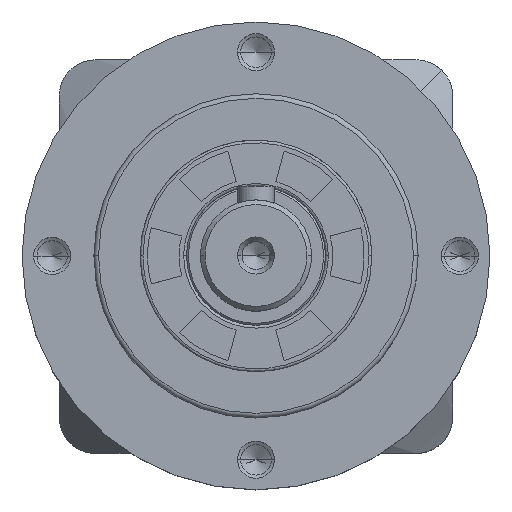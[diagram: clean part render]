
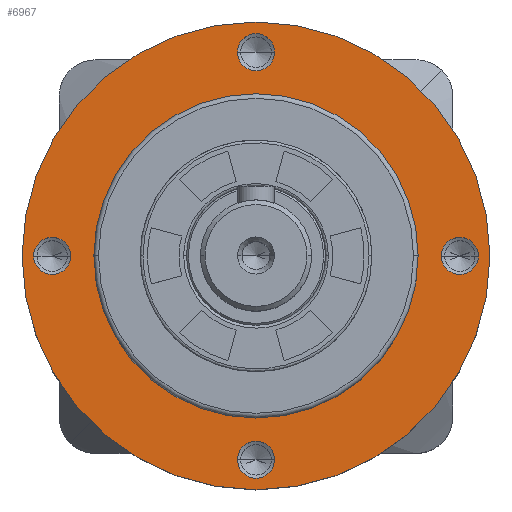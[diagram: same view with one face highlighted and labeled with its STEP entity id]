
A CAD part, top view. The second image highlights one B-rep face of the part: STEP entity #6967.
In plain terms, the highlighted planar face has unit normal (0, 0, 1).
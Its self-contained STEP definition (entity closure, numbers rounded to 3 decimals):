
#309 = CIRCLE ( 'NONE', #8910, 17.5 ) ;
#388 = VERTEX_POINT ( 'NONE', #14330 ) ;
#780 = ORIENTED_EDGE ( 'NONE', *, *, #4284, .F. ) ;
#979 = CARTESIAN_POINT ( 'NONE',  ( 22., 0., 10.8 ) ) ;
#1067 = CARTESIAN_POINT ( 'NONE',  ( 2., -22., 10.8 ) ) ;
#1087 = CARTESIAN_POINT ( 'NONE',  ( -17.5, 0., 10.8 ) ) ;
#1158 = DIRECTION ( 'NONE',  ( 1., 0., 0. ) ) ;
#1247 = CARTESIAN_POINT ( 'NONE',  ( -2., 22., 10.8 ) ) ;
#1254 = DIRECTION ( 'NONE',  ( 0., 0., 1. ) ) ;
#1272 = CARTESIAN_POINT ( 'NONE',  ( 0., 22., 10.8 ) ) ;
#1708 = CARTESIAN_POINT ( 'NONE',  ( -2., -22., 10.8 ) ) ;
#1770 = EDGE_CURVE ( 'NONE', #19057, #388, #17792, .T. ) ;
#1834 = FACE_BOUND ( 'NONE', #9662, .T. ) ;
#1933 = EDGE_CURVE ( 'NONE', #10940, #7120, #309, .T. ) ;
#1975 = DIRECTION ( 'NONE',  ( 1., 0., 0. ) ) ;
#2134 = EDGE_LOOP ( 'NONE', ( #12371, #10568 ) ) ;
#2347 = AXIS2_PLACEMENT_3D ( 'NONE', #19751, #4803, #1158 ) ;
#2574 = AXIS2_PLACEMENT_3D ( 'NONE', #17294, #17135, #13470 ) ;
#2764 = AXIS2_PLACEMENT_3D ( 'NONE', #4453, #15800, #4613 ) ;
#2812 = ORIENTED_EDGE ( 'NONE', *, *, #19721, .F. ) ;
#2972 = CIRCLE ( 'NONE', #18079, 2. ) ;
#3130 = DIRECTION ( 'NONE',  ( 0., 0., 1. ) ) ;
#3136 = CARTESIAN_POINT ( 'NONE',  ( 25.25, 0., 10.8 ) ) ;
#3183 = EDGE_CURVE ( 'NONE', #10562, #20847, #23903, .T. ) ;
#3286 = DIRECTION ( 'NONE',  ( 1., 0., 0. ) ) ;
#3435 = AXIS2_PLACEMENT_3D ( 'NONE', #17793, #19692, #8152 ) ;
#3668 = CARTESIAN_POINT ( 'NONE',  ( 24., 0., 10.8 ) ) ;
#4174 = EDGE_LOOP ( 'NONE', ( #17343, #16841 ) ) ;
#4284 = EDGE_CURVE ( 'NONE', #20847, #10562, #23574, .T. ) ;
#4453 = CARTESIAN_POINT ( 'NONE',  ( 0., -22., 10.8 ) ) ;
#4565 = CIRCLE ( 'NONE', #5808, 2. ) ;
#4613 = DIRECTION ( 'NONE',  ( 1., 0., 0. ) ) ;
#4803 = DIRECTION ( 'NONE',  ( 0., 0., 1. ) ) ;
#5056 = ORIENTED_EDGE ( 'NONE', *, *, #22210, .F. ) ;
#5344 = DIRECTION ( 'NONE',  ( 0., 0., 1. ) ) ;
#5348 = CARTESIAN_POINT ( 'NONE',  ( -22., 0., 10.8 ) ) ;
#5402 = DIRECTION ( 'NONE',  ( 0., 0., 1. ) ) ;
#5808 = AXIS2_PLACEMENT_3D ( 'NONE', #12612, #18150, #21673 ) ;
#6203 = FACE_BOUND ( 'NONE', #12231, .T. ) ;
#6532 = EDGE_LOOP ( 'NONE', ( #11233, #780 ) ) ;
#6557 = DIRECTION ( 'NONE',  ( 1., 0., 0. ) ) ;
#6967 = ADVANCED_FACE ( 'NONE', ( #1834, #6203, #12629, #16988, #23703, #9402 ), #22107, .T. ) ;
#7108 = CIRCLE ( 'NONE', #2764, 2. ) ;
#7120 = VERTEX_POINT ( 'NONE', #18879 ) ;
#7755 = VERTEX_POINT ( 'NONE', #14513 ) ;
#8152 = DIRECTION ( 'NONE',  ( 1., 0., 0. ) ) ;
#8664 = CARTESIAN_POINT ( 'NONE',  ( -22., 0., 10.8 ) ) ;
#8742 = DIRECTION ( 'NONE',  ( 1., 0., 0. ) ) ;
#8910 = AXIS2_PLACEMENT_3D ( 'NONE', #16509, #5402, #1975 ) ;
#9176 = CARTESIAN_POINT ( 'NONE',  ( -20., 0., 10.8 ) ) ;
#9402 = FACE_OUTER_BOUND ( 'NONE', #4174, .T. ) ;
#9422 = DIRECTION ( 'NONE',  ( 1., 0., 0. ) ) ;
#9496 = AXIS2_PLACEMENT_3D ( 'NONE', #23356, #17796, #6557 ) ;
#9662 = EDGE_LOOP ( 'NONE', ( #17268, #2812 ) ) ;
#9705 = CARTESIAN_POINT ( 'NONE',  ( 2., 22., 10.8 ) ) ;
#9931 = CIRCLE ( 'NONE', #17475, 2. ) ;
#10562 = VERTEX_POINT ( 'NONE', #9705 ) ;
#10568 = ORIENTED_EDGE ( 'NONE', *, *, #21304, .F. ) ;
#10940 = VERTEX_POINT ( 'NONE', #1087 ) ;
#11233 = ORIENTED_EDGE ( 'NONE', *, *, #3183, .F. ) ;
#11624 = AXIS2_PLACEMENT_3D ( 'NONE', #14624, #1254, #12501 ) ;
#12231 = EDGE_LOOP ( 'NONE', ( #22631, #5056 ) ) ;
#12371 = ORIENTED_EDGE ( 'NONE', *, *, #1933, .F. ) ;
#12501 = DIRECTION ( 'NONE',  ( 1., 0., 0. ) ) ;
#12612 = CARTESIAN_POINT ( 'NONE',  ( 22., 0., 10.8 ) ) ;
#12629 = FACE_BOUND ( 'NONE', #19716, .T. ) ;
#12787 = CARTESIAN_POINT ( 'NONE',  ( 0., 0., 10.8 ) ) ;
#13162 = CIRCLE ( 'NONE', #9496, 17.5 ) ;
#13457 = VERTEX_POINT ( 'NONE', #19009 ) ;
#13470 = DIRECTION ( 'NONE',  ( 1., 0., 0. ) ) ;
#13788 = EDGE_CURVE ( 'NONE', #24028, #7755, #4565, .T. ) ;
#14030 = DIRECTION ( 'NONE',  ( 0., 0., 1. ) ) ;
#14133 = AXIS2_PLACEMENT_3D ( 'NONE', #12787, #5344, #14664 ) ;
#14330 = CARTESIAN_POINT ( 'NONE',  ( -25.25, 0., 10.8 ) ) ;
#14486 = CIRCLE ( 'NONE', #16612, 2. ) ;
#14513 = CARTESIAN_POINT ( 'NONE',  ( 20., 0., 10.8 ) ) ;
#14552 = EDGE_CURVE ( 'NONE', #17009, #19699, #17686, .T. ) ;
#14590 = EDGE_CURVE ( 'NONE', #19195, #13457, #14486, .T. ) ;
#14624 = CARTESIAN_POINT ( 'NONE',  ( 0., -22., 10.8 ) ) ;
#14664 = DIRECTION ( 'NONE',  ( 1., 0., 0. ) ) ;
#15260 = ORIENTED_EDGE ( 'NONE', *, *, #14552, .F. ) ;
#15800 = DIRECTION ( 'NONE',  ( 0., 0., 1. ) ) ;
#16302 = EDGE_CURVE ( 'NONE', #388, #19057, #21744, .T. ) ;
#16509 = CARTESIAN_POINT ( 'NONE',  ( 0., 0., 10.8 ) ) ;
#16612 = AXIS2_PLACEMENT_3D ( 'NONE', #8664, #22065, #8742 ) ;
#16841 = ORIENTED_EDGE ( 'NONE', *, *, #16302, .T. ) ;
#16988 = FACE_BOUND ( 'NONE', #6532, .T. ) ;
#17009 = VERTEX_POINT ( 'NONE', #1708 ) ;
#17135 = DIRECTION ( 'NONE',  ( 0., 0., 1. ) ) ;
#17268 = ORIENTED_EDGE ( 'NONE', *, *, #13788, .F. ) ;
#17294 = CARTESIAN_POINT ( 'NONE',  ( 0., 0., 10.8 ) ) ;
#17343 = ORIENTED_EDGE ( 'NONE', *, *, #1770, .T. ) ;
#17475 = AXIS2_PLACEMENT_3D ( 'NONE', #5348, #18652, #9422 ) ;
#17563 = ORIENTED_EDGE ( 'NONE', *, *, #17879, .F. ) ;
#17686 = CIRCLE ( 'NONE', #11624, 2. ) ;
#17792 = CIRCLE ( 'NONE', #3435, 25.25 ) ;
#17793 = CARTESIAN_POINT ( 'NONE',  ( 0., 0., 10.8 ) ) ;
#17796 = DIRECTION ( 'NONE',  ( 0., 0., 1. ) ) ;
#17879 = EDGE_CURVE ( 'NONE', #19699, #17009, #7108, .T. ) ;
#18079 = AXIS2_PLACEMENT_3D ( 'NONE', #979, #14030, #19651 ) ;
#18150 = DIRECTION ( 'NONE',  ( 0., 0., 1. ) ) ;
#18652 = DIRECTION ( 'NONE',  ( 0., 0., 1. ) ) ;
#18879 = CARTESIAN_POINT ( 'NONE',  ( 17.5, 0., 10.8 ) ) ;
#19009 = CARTESIAN_POINT ( 'NONE',  ( -24., 0., 10.8 ) ) ;
#19057 = VERTEX_POINT ( 'NONE', #3136 ) ;
#19195 = VERTEX_POINT ( 'NONE', #9176 ) ;
#19651 = DIRECTION ( 'NONE',  ( 1., 0., 0. ) ) ;
#19692 = DIRECTION ( 'NONE',  ( 0., 0., 1. ) ) ;
#19699 = VERTEX_POINT ( 'NONE', #1067 ) ;
#19716 = EDGE_LOOP ( 'NONE', ( #17563, #15260 ) ) ;
#19721 = EDGE_CURVE ( 'NONE', #7755, #24028, #2972, .T. ) ;
#19751 = CARTESIAN_POINT ( 'NONE',  ( 0., 22., 10.8 ) ) ;
#20847 = VERTEX_POINT ( 'NONE', #1247 ) ;
#21304 = EDGE_CURVE ( 'NONE', #7120, #10940, #13162, .T. ) ;
#21673 = DIRECTION ( 'NONE',  ( 1., 0., 0. ) ) ;
#21744 = CIRCLE ( 'NONE', #2574, 25.25 ) ;
#22065 = DIRECTION ( 'NONE',  ( 0., 0., 1. ) ) ;
#22107 = PLANE ( 'NONE',  #14133 ) ;
#22210 = EDGE_CURVE ( 'NONE', #13457, #19195, #9931, .T. ) ;
#22510 = AXIS2_PLACEMENT_3D ( 'NONE', #1272, #3130, #3286 ) ;
#22631 = ORIENTED_EDGE ( 'NONE', *, *, #14590, .F. ) ;
#23356 = CARTESIAN_POINT ( 'NONE',  ( 0., 0., 10.8 ) ) ;
#23574 = CIRCLE ( 'NONE', #2347, 2. ) ;
#23703 = FACE_BOUND ( 'NONE', #2134, .T. ) ;
#23903 = CIRCLE ( 'NONE', #22510, 2. ) ;
#24028 = VERTEX_POINT ( 'NONE', #3668 ) ;
